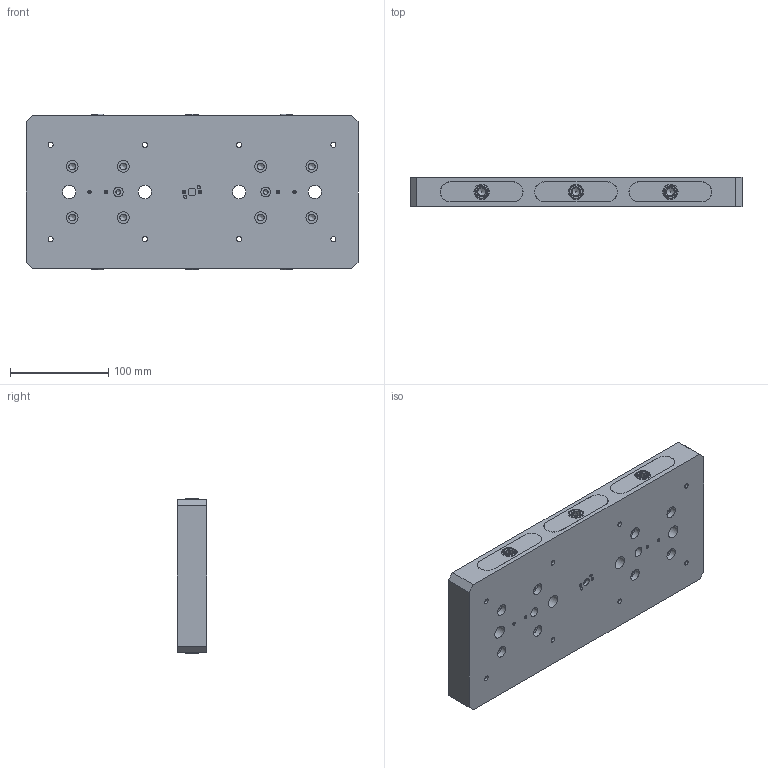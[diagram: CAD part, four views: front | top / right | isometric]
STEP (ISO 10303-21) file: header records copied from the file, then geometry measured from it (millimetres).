
FILE_DESCRIPTION (( 'STEP AP214' ), '1' );
FILE_NAME ('RL96A-3613S1_WEBSITE.STEP', '2025-08-11T11:18:07', ( '' ), ( '' ), 'SwSTEP 2.0', 'SolidWorks 2025', '' );
FILE_SCHEMA (( 'AUTOMOTIVE_DESIGN' ));
Length unit declared in the file: inch
Products named in the file (10): 9750K730_PLASTIC ROUND PLUG_WEBSITE_9750K73; D_RL96-1613S1A_WEBSITE; 9452K183-Base-O-Ring_WEBSITE; D_HW27X20.DB_WEBSITE; 9452K121-Truck-O-Ring_WEBSITE; D_RL96-2R_WEBSITE; D_RL96-2L_WEBSITE; D_SB54_WEBSITE_FINISHED PART; D_RL96-3_WEBSITE; RL96A-3613S1_WEBSITE
Assembly tree (38 placements, depth 2):
  9750K730_PLASTIC ROUND PLUG_WEBSITE_9750K73
  RL96A-3613S1_WEBSITE
    D_RL96-1613S1A_WEBSITE
    D_RL96-2L_WEBSITE  x3
    D_RL96-2R_WEBSITE  x3
    D_RL96-3_WEBSITE  x3
    D_HW27X20.DB_WEBSITE  x8
    D_SB54_WEBSITE_FINISHED PART  x6
    9452K183-Base-O-Ring_WEBSITE  x8
    9452K121-Truck-O-Ring_WEBSITE  x6
Bounding box: 338 x 30 x 158 mm (x, y, z)
Volume: 1361936.2 mm3; surface area: 316038.3 mm2
Topology: 44 solids, 44 shells, 794 faces, 1792 edges, 1122 vertices
Faces by surface type: plane 471, cylinder 241, cone 54, torus 22, bspline 6
Full cylindrical faces by diameter (mm): 0.127 x6, 2.5 x6, 3.3 x8, 4 x6, 4.7 x6, 5 x8, 5.182 x14, 6.8 x8, 8.026 x1, 8.204 x6, 9 x6, 9.525 x6, 10.025 x2, 10.795 x3, 11.938 x8, 12 x8, 12.573 x8, 13.492 x4, 14 x6, 15.748 x6, 19.05 x6, 19.101 x8, 19.99 x3, 20.015 x8, 20.035 x8, 20.637 x3, 20.638 x1, 26.982 x8, 26.993 x8, 27.051 x8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
Entity records: 13612 total; most frequent: CARTESIAN_POINT 4749, DIRECTION 1830, ORIENTED_EDGE 1392, AXIS2_PLACEMENT_3D 777, EDGE_CURVE 696, EDGE_LOOP 664, VERTEX_POINT 528, FACE_OUTER_BOUND 509
